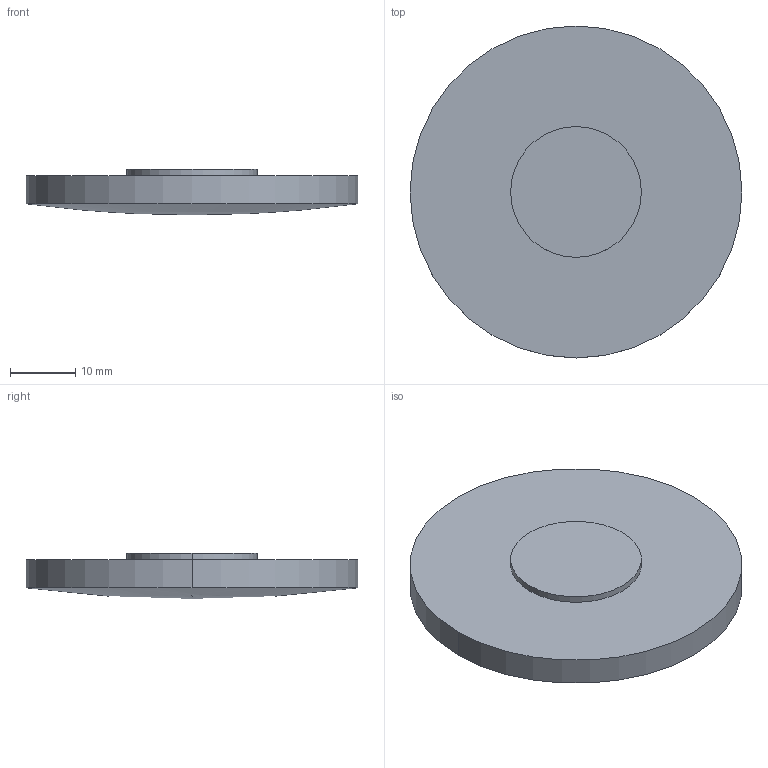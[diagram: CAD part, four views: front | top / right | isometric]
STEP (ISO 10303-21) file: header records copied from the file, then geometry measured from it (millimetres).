
FILE_DESCRIPTION(('STEP AP214'),'1');
FILE_NAME('LLF-51475.STEP','2020-03-09T17:41:31',(' '),(' '),'Spatial InterOp 3D',' ',' ');
FILE_SCHEMA(('AUTOMOTIVE_DESIGN { 1 0 10303 214 1 1 1 1 }'));
Length unit declared in the file: millimetre
Products named in the file (1): 1
Bounding box: 50.8 x 50.8 x 7 mm (x, y, z)
Volume: 10773.9 mm3; surface area: 5442.9 mm2
Topology: 2 solids, 2 shells, 9 faces, 16 edges, 9 vertices
Faces by surface type: cylinder 4, plane 3, sphere 2
Entity records: 229 total; most frequent: DIRECTION 46, CARTESIAN_POINT 34, ORIENTED_EDGE 28, AXIS2_PLACEMENT_3D 21, EDGE_CURVE 14, CIRCLE 10, ADVANCED_FACE 9, FACE_OUTER_BOUND 9
